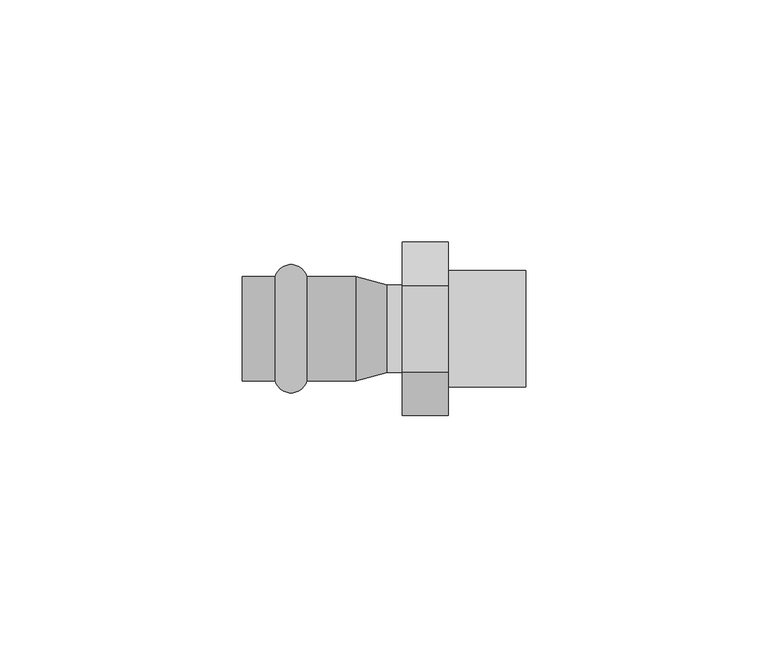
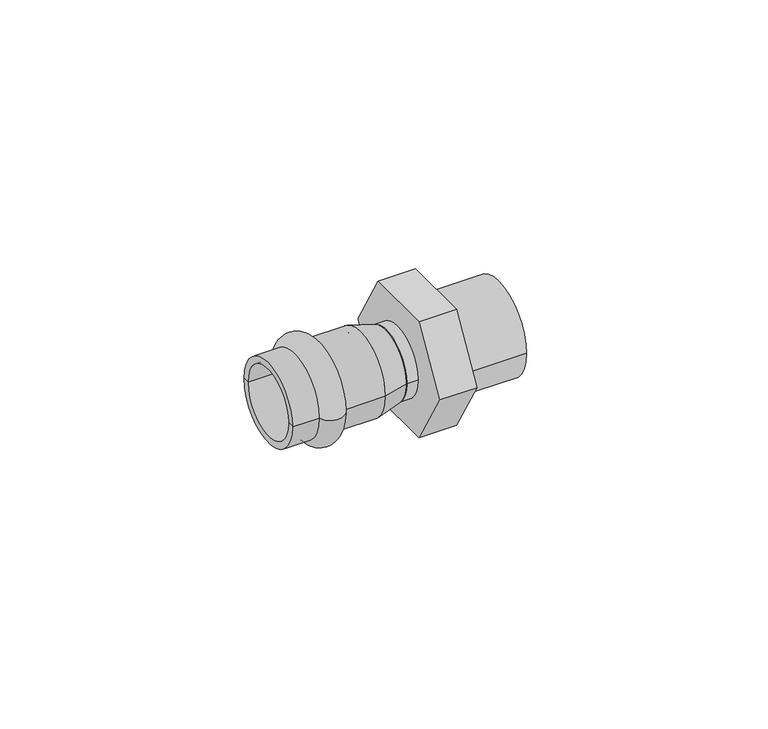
"""IFC4 building model written with IfcOpenShell, lengths in millimetres: pipe fitting geometry, VALTEC_VTi.901.I_Соединитель прямой с переходом на наружную резьбу_Нержавеющая сталь : VTi.901.I."""

from ifc_helpers import new_model, si_unit, point, frame, origin, origin_2d, place, context, project, spatial, polyline, circle_curve, ellipse_curve, trimmed, segment, composite_curve, outline, extrude, source, transform, mapped, element, save
from ifc_brep_helpers import plane_surface, cylinder_surface, revolved_surface, advanced_brep


def pipe_fitting_435bae82(model_context):
    return source(origin(), model_context, "Body", "SolidModel", [
        advanced_brep(
        [(-30.9787193, -10.75, 0.0), (-30.9787193, 10.75, 0.0), (-24.4212807, 10.75, 0.0), (-24.4212807, -10.75, 0.0), (-37.75, -10.75, 0.0), (-37.75, 10.75, 0.0), (-37.75, -9.0, 0.0), (-37.75, 9.0, 0.0), (-14.35, -9.0, 0.0), (-14.35, 9.0, 0.0), (-14.35, -10.75, 0.0), (-14.35, 10.75, 0.0)],
        [
            (0, 1, circle_curve(frame((-30.9787193, 0.0, 0.0), z_axis=(1.0, 0.0, 0.0), x_axis=(0.0, 1.0, 0.0)), 10.75)),
            (1, 2, circle_curve(frame((-27.7, 9.85, 0.0), z_axis=(0.0, 0.0, -1.0), x_axis=(1.0, 0.0, 0.0)), 3.4)),
            (2, 3, circle_curve(frame((-24.4212807, 0.0, 0.0), z_axis=(-1.0, 0.0, 0.0), x_axis=(0.0, 1.0, 0.0)), 10.75)),
            (3, 0, circle_curve(frame((-27.7, -9.85, 0.0), z_axis=(0.0, 0.0, -1.0), x_axis=(1.0, 0.0, 0.0)), 3.4)),
            (1, 0, circle_curve(frame((-30.9787193, 0.0, 0.0), z_axis=(1.0, 0.0, 0.0), x_axis=(0.0, 1.0, 0.0)), 10.75)),
            (3, 2, circle_curve(frame((-24.4212807, 0.0, 0.0), z_axis=(-1.0, 0.0, 0.0), x_axis=(0.0, 1.0, 0.0)), 10.75)),
            (4, 5, circle_curve(frame((-37.75, 0.0, 0.0), z_axis=(1.0, 0.0, 0.0), x_axis=(0.0, 1.0, 0.0)), 10.75)),
            (5, 1),
            (0, 4),
            (5, 4, circle_curve(frame((-37.75, 0.0, 0.0), z_axis=(1.0, 0.0, 0.0), x_axis=(0.0, 1.0, 0.0)), 10.75)),
            (6, 7, circle_curve(frame((-37.75, 0.0, 0.0), z_axis=(1.0, 0.0, 0.0), x_axis=(0.0, 1.0, 0.0)), 9.0)),
            (7, 5),
            (4, 6),
            (7, 6, circle_curve(frame((-37.75, 0.0, 0.0), z_axis=(1.0, 0.0, 0.0), x_axis=(0.0, 1.0, 0.0)), 9.0)),
            (8, 9, circle_curve(frame((-14.35, 0.0, 0.0), z_axis=(1.0, 0.0, 0.0), x_axis=(0.0, 1.0, 0.0)), 9.0)),
            (9, 7),
            (6, 8),
            (9, 8, circle_curve(frame((-14.35, 0.0, 0.0), z_axis=(1.0, 0.0, 0.0), x_axis=(0.0, 1.0, 0.0)), 9.0)),
            (10, 11, circle_curve(frame((-14.35, 0.0, 0.0), z_axis=(1.0, 0.0, 0.0), x_axis=(0.0, 1.0, 0.0)), 10.75)),
            (11, 9),
            (8, 10),
            (11, 10, circle_curve(frame((-14.35, 0.0, 0.0), z_axis=(1.0, 0.0, 0.0), x_axis=(0.0, 1.0, 0.0)), 10.75)),
            (2, 11),
            (10, 3),
        ],
        [
            revolved_surface(trimmed(ellipse_curve(frame((-27.7, 9.85, 0.0), z_axis=(0.0, 0.0, 1.0), x_axis=(1.0, 0.0, 0.0)), 3.4, 3.4), [point((-24.4212807, 10.75, 0.0))], [point((-30.9787193, 10.75, 0.0))], True, "CARTESIAN"), (-41.2864426, 0.0, 0.0), (-1.0, 0.0, 0.0)),
            cylinder_surface(frame((-41.2864426, 0.0, 0.0), z_axis=(-1.0, 0.0, 0.0), x_axis=(0.0, 1.0, 0.0)), 10.75),
            plane_surface(frame((-37.75, 0.0, 0.0), z_axis=(-1.0, 0.0, 0.0), x_axis=(0.0, 1.0, 0.0))),
            revolved_surface(polyline([(-37.75, 9.0, 0.0), (-14.350000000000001, 9.0, 0.0)]), (-41.2864426, 0.0, 0.0), (-1.0, 0.0, 0.0)),
            plane_surface(frame((-14.35, 0.0, 0.0), z_axis=(1.0, 0.0, 0.0), x_axis=(0.0, 1.0, 0.0))),
        ],
        [
            (0, [[1, 2, 3, 4]]),
            (0, [[5, -4, 6, -2]]),
            (1, [[7, 8, -1, 9]]),
            (1, [[10, -9, -5, -8]]),
            (2, [[11, 12, -7, 13]]),
            (2, [[14, -13, -10, -12]]),
            (3, [[15, 16, -11, 17]]),
            (3, [[18, -17, -14, -16]]),
            (4, [[19, 20, -15, 21]]),
            (4, [[22, -21, -18, -20]]),
            (1, [[-3, 23, -19, 24]]),
            (1, [[-6, -24, -22, -23]]),
        ],
    ),
        extrude(outline(polyline([(-17.8978583, 0.0), (-8.9489292, 15.5), (8.9489292, 15.5), (17.8978583, 0.0), (8.9489292, -15.5), (-8.9489292, -15.5), (-17.8978583, 0.0)])), frame((-4.75, 0.0, 0.0), z_axis=(1.0, 0.0, 0.0), x_axis=(0.0, 1.0, 0.0)), (0.0, 0.0, 1.0), 9.5),
        extrude(outline(composite_curve([segment(trimmed(circle_curve(origin_2d(), 9.0), [point((-9.0, 0.0))], [point((9.0, 0.0))], False, "CARTESIAN"), True, "CONTINUOUS"), segment(trimmed(circle_curve(origin_2d(), 9.0), [point((9.0, 0.0))], [point((-9.0, 0.0))], False, "CARTESIAN"), True, "CONTINUOUS")], self_intersect=False)), frame((-7.8183127, 0.0, 0.0), z_axis=(1.0, 0.0, 0.0), x_axis=(0.0, 1.0, 0.0)), (0.0, 0.0, 1.0), 3.0683127),
        advanced_brep(
        [(-14.35, -10.75, 0.0), (-14.35, 10.75, 0.0), (-7.8183127, -9.0, 0.0), (-7.8183127, 9.0, 0.0)],
        [
            (0, 1, circle_curve(frame((-14.35, 0.0, 0.0), z_axis=(-1.0, 0.0, 0.0), x_axis=(0.0, -1.0, 0.0)), 10.75)),
            (1, 0, circle_curve(frame((-14.35, 0.0, 0.0), z_axis=(-1.0, 0.0, 0.0), x_axis=(0.0, 1.0, 0.0)), 10.75)),
            (2, 3, circle_curve(frame((-7.8183127, 0.0, 0.0), z_axis=(1.0, 0.0, 0.0), x_axis=(0.0, 1.0, 0.0)), 9.0)),
            (3, 2, circle_curve(frame((-7.8183127, 0.0, 0.0), z_axis=(1.0, 0.0, 0.0), x_axis=(0.0, -1.0, 0.0)), 9.0)),
            (2, 0),
            (1, 3),
        ],
        [
            plane_surface(frame((-14.35, 0.0, 0.0), z_axis=(-1.0, 0.0, 0.0), x_axis=(0.0, 0.0, -1.0))),
            plane_surface(frame((-7.8183127, 0.0, 0.0), z_axis=(1.0, 0.0, 0.0), x_axis=(0.0, 0.0, -1.0))),
            revolved_surface(polyline([(-7.8183127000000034, -9.000000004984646, 0.0), (-14.349999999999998, -10.75, 0.0)]), (25.7732221, 0.0, 0.0), (-1.0, 0.0, 0.0)),
            revolved_surface(polyline([(-7.8183127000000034, 9.000000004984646, 0.0), (-14.349999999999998, 10.75, 0.0)]), (25.7732221, 0.0, 0.0), (-1.0, 0.0, 0.0)),
        ],
        [
            (0, [[1, 2]]),
            (1, [[3, 4]]),
            (2, [[-3, 5, -2, 6]]),
            (3, [[-4, -6, -1, -5]]),
        ],
    ),
        extrude(outline(composite_curve([segment(trimmed(circle_curve(origin_2d(), 12.0), [point((-12.0, 0.0))], [point((12.0, 0.0))], False, "CARTESIAN"), True, "CONTINUOUS"), segment(trimmed(circle_curve(origin_2d(), 12.0), [point((12.0, 0.0))], [point((-12.0, 0.0))], False, "CARTESIAN"), True, "CONTINUOUS")], self_intersect=False), holes=[composite_curve([segment(trimmed(circle_curve(origin_2d(), 10.0), [point((-10.0, 0.0))], [point((10.0, 0.0))], True, "CARTESIAN"), True, "CONTINUOUS"), segment(trimmed(circle_curve(origin_2d(), 10.0), [point((10.0, 0.0))], [point((-10.0, 0.0))], True, "CARTESIAN"), True, "CONTINUOUS")], self_intersect=False)]), frame((4.75, 0.0, 0.0), z_axis=(1.0, 0.0, 0.0), x_axis=(0.0, 1.0, 0.0)), (0.0, 0.0, 1.0), 16.0),
    ])


if __name__ == "__main__":
    model = new_model("IFC4")
    model_context = context("Model", 3, world=origin())
    ifc_project = project(units=[si_unit("LENGTHUNIT", "METRE", prefix="MILLI")], contexts=[model_context])
    site = spatial("IfcSite", under=ifc_project)
    building = spatial("IfcBuilding", under=site)
    placement = place(None, origin())
    pipe_fitting_shape = pipe_fitting_435bae82(model_context)
    element("IfcPipeFitting", 1, ObjectType="VALTEC_VTi.901.I_Соединитель прямой с переходом на наружную резьбу_Нержавеющая сталь : VTi.901.I", at=placement, inside=building, context=model_context, shape_type="MappedRepresentation", body=[
        mapped(pipe_fitting_shape, transform((0.0, 0.0, 0.0), x_axis=(1.0, 0.0, 0.0), y_axis=(0.0, 1.0, 0.0), z_axis=(0.0, 0.0, 1.0))),
    ])
    save(model, "model.ifc")
